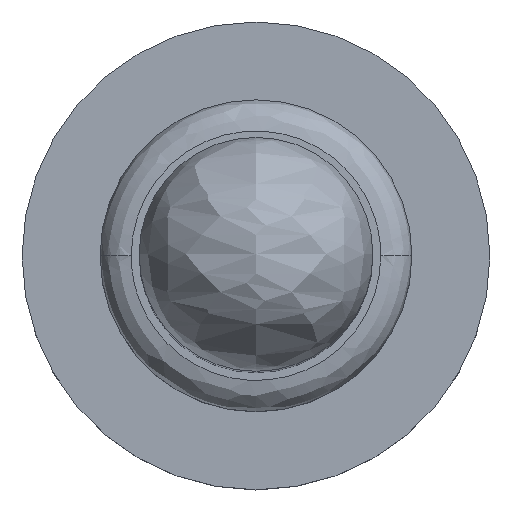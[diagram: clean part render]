
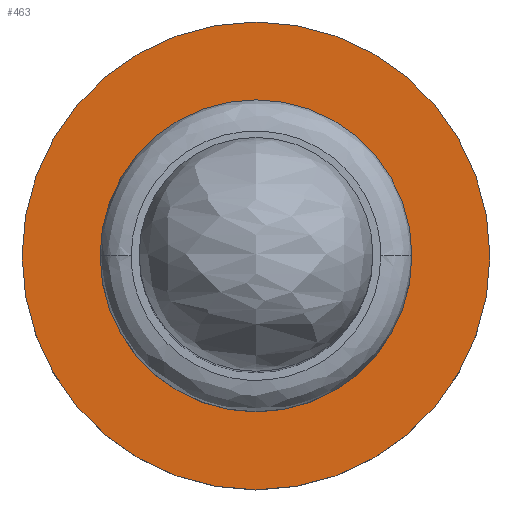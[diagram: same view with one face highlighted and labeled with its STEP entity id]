
A CAD part, top view. The second image highlights one B-rep face of the part: STEP entity #463.
In plain terms, the highlighted planar face has unit normal (0, 0, 1).
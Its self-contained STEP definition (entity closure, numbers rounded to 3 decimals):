
#18 = DIRECTION ( 'NONE',  ( 0., 0., 1. ) ) ;
#28 = ORIENTED_EDGE ( 'NONE', *, *, #79, .F. ) ;
#32 = VERTEX_POINT ( 'NONE', #578 ) ;
#39 = DIRECTION ( 'NONE',  ( 0., 0., -1. ) ) ;
#43 = EDGE_CURVE ( 'NONE', #364, #151, #132, .T. ) ;
#46 = AXIS2_PLACEMENT_3D ( 'NONE', #115, #283, #516 ) ;
#53 = DIRECTION ( 'NONE',  ( 1., 0., 0. ) ) ;
#73 = CIRCLE ( 'NONE', #146, 1. ) ;
#78 = DIRECTION ( 'NONE',  ( 0., 0., -1. ) ) ;
#79 = EDGE_CURVE ( 'NONE', #151, #364, #73, .T. ) ;
#110 = CARTESIAN_POINT ( 'NONE',  ( 0., 0., 0.5 ) ) ;
#115 = CARTESIAN_POINT ( 'NONE',  ( 0., 0., 0.5 ) ) ;
#117 = EDGE_CURVE ( 'NONE', #32, #546, #259, .T. ) ;
#129 = FACE_BOUND ( 'NONE', #451, .T. ) ;
#132 = CIRCLE ( 'NONE', #716, 1. ) ;
#146 = AXIS2_PLACEMENT_3D ( 'NONE', #470, #18, #471 ) ;
#151 = VERTEX_POINT ( 'NONE', #213 ) ;
#188 = AXIS2_PLACEMENT_3D ( 'NONE', #698, #39, #465 ) ;
#204 = EDGE_CURVE ( 'NONE', #546, #32, #307, .T. ) ;
#213 = CARTESIAN_POINT ( 'NONE',  ( 1., 0., 0.5 ) ) ;
#225 = ORIENTED_EDGE ( 'NONE', *, *, #117, .F. ) ;
#259 = CIRCLE ( 'NONE', #46, 1.5 ) ;
#260 = AXIS2_PLACEMENT_3D ( 'NONE', #668, #78, #312 ) ;
#283 = DIRECTION ( 'NONE',  ( 0., 0., -1. ) ) ;
#307 = CIRCLE ( 'NONE', #188, 1.5 ) ;
#312 = DIRECTION ( 'NONE',  ( -1., 0., 0. ) ) ;
#335 = ORIENTED_EDGE ( 'NONE', *, *, #204, .F. ) ;
#347 = DIRECTION ( 'NONE',  ( 0., 0., 1. ) ) ;
#364 = VERTEX_POINT ( 'NONE', #406 ) ;
#406 = CARTESIAN_POINT ( 'NONE',  ( -1., 0., 0.5 ) ) ;
#414 = PLANE ( 'NONE',  #260 ) ;
#422 = FACE_OUTER_BOUND ( 'NONE', #744, .T. ) ;
#451 = EDGE_LOOP ( 'NONE', ( #28, #691 ) ) ;
#463 = ADVANCED_FACE ( 'NONE', ( #422, #129 ), #414, .F. ) ;
#465 = DIRECTION ( 'NONE',  ( 1., 0., 0. ) ) ;
#470 = CARTESIAN_POINT ( 'NONE',  ( 0., 0., 0.5 ) ) ;
#471 = DIRECTION ( 'NONE',  ( 1., 0., 0. ) ) ;
#516 = DIRECTION ( 'NONE',  ( 1., 0., 0. ) ) ;
#546 = VERTEX_POINT ( 'NONE', #597 ) ;
#578 = CARTESIAN_POINT ( 'NONE',  ( -1.5, 0., 0.5 ) ) ;
#597 = CARTESIAN_POINT ( 'NONE',  ( 1.5, 0., 0.5 ) ) ;
#668 = CARTESIAN_POINT ( 'NONE',  ( 0., 1., 0.5 ) ) ;
#691 = ORIENTED_EDGE ( 'NONE', *, *, #43, .F. ) ;
#698 = CARTESIAN_POINT ( 'NONE',  ( 0., 0., 0.5 ) ) ;
#716 = AXIS2_PLACEMENT_3D ( 'NONE', #110, #347, #53 ) ;
#744 = EDGE_LOOP ( 'NONE', ( #335, #225 ) ) ;
